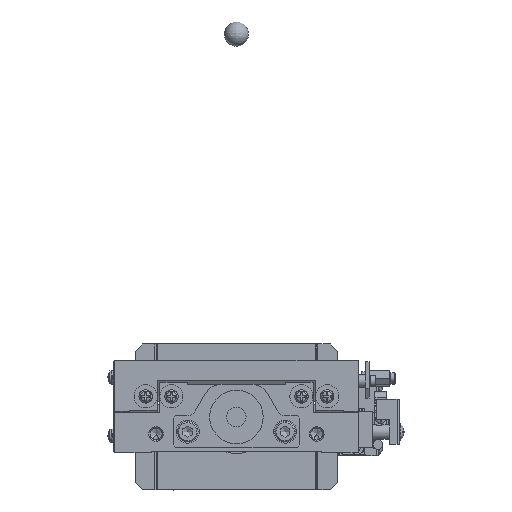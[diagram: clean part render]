
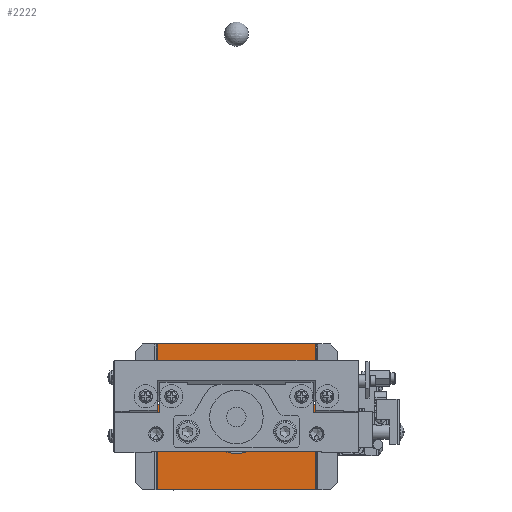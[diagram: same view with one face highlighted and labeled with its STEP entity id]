
A CAD part, left-side view. The second image highlights one B-rep face of the part: STEP entity #2222.
In plain terms, the highlighted planar face has unit normal (-1, 0, 0).
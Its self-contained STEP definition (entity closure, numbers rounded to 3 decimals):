
#2222=ADVANCED_FACE('',(#24152,#24153),#24151,.T.);
#24151=PLANE('',#46478);
#24152=FACE_OUTER_BOUND('',#46479,.T.);
#24153=FACE_BOUND('',#46480,.T.);
#46475=CARTESIAN_POINT('',(86.,-39.,50.7));
#46476=DIRECTION('',(-1.,0.,0.));
#46477=DIRECTION('',(0.,1.,0.));
#46478=AXIS2_PLACEMENT_3D('',#46475,#46476,#46477);
#46479=EDGE_LOOP('',(#63871,#63872,#63873,#63874,#63875,#63876,#63877,#63878,#63879,#63880,#63881,#63882,#63883));
#46480=EDGE_LOOP('',(#63884,#63885));
#63871=ORIENTED_EDGE('',*,*,#74068,.T.);
#63872=ORIENTED_EDGE('',*,*,#72691,.T.);
#63873=ORIENTED_EDGE('',*,*,#74071,.T.);
#63874=ORIENTED_EDGE('',*,*,#74182,.T.);
#63875=ORIENTED_EDGE('',*,*,#74074,.T.);
#63876=ORIENTED_EDGE('',*,*,#74245,.T.);
#63877=ORIENTED_EDGE('',*,*,#74114,.F.);
#63878=ORIENTED_EDGE('',*,*,#74178,.T.);
#63879=ORIENTED_EDGE('',*,*,#74104,.F.);
#63880=ORIENTED_EDGE('',*,*,#72702,.T.);
#63881=ORIENTED_EDGE('',*,*,#72698,.T.);
#63882=ORIENTED_EDGE('',*,*,#74103,.F.);
#63883=ORIENTED_EDGE('',*,*,#74246,.F.);
#63884=ORIENTED_EDGE('',*,*,#74186,.T.);
#63885=ORIENTED_EDGE('',*,*,#74187,.T.);
#72691=EDGE_CURVE('',#103292,#103333,#103340,.T.);
#72698=EDGE_CURVE('',#103386,#103378,#103387,.T.);
#72702=EDGE_CURVE('',#103413,#103386,#103414,.T.);
#74068=EDGE_CURVE('',#112523,#103292,#112524,.T.);
#74071=EDGE_CURVE('',#103333,#112536,#112543,.T.);
#74074=EDGE_CURVE('',#112564,#112557,#112565,.T.);
#74103=EDGE_CURVE('',#112755,#103378,#112762,.T.);
#74104=EDGE_CURVE('',#103413,#112768,#112769,.T.);
#74114=EDGE_CURVE('',#112835,#112836,#112837,.T.);
#74178=EDGE_CURVE('',#112835,#112768,#113255,.T.);
#74182=EDGE_CURVE('',#112536,#112564,#113280,.T.);
#74186=EDGE_CURVE('',#113306,#113299,#113307,.T.);
#74187=EDGE_CURVE('',#113299,#113306,#113313,.T.);
#74245=EDGE_CURVE('',#112557,#112836,#113689,.T.);
#74246=EDGE_CURVE('',#112523,#112755,#113695,.T.);
#103292=VERTEX_POINT('',#145659);
#103333=VERTEX_POINT('',#145686);
#103340=CIRCLE('',#145694,6.);
#103378=VERTEX_POINT('',#145821);
#103386=VERTEX_POINT('',#145827);
#103387=CIRCLE('',#145831,6.);
#103413=VERTEX_POINT('',#145844);
#103414=CIRCLE('',#145848,6.);
#112523=VERTEX_POINT('',#151945);
#112524=LINE('',#151946,#151947);
#112536=VERTEX_POINT('',#151952);
#112543=LINE('',#151956,#151957);
#112557=VERTEX_POINT('',#151964);
#112564=VERTEX_POINT('',#151968);
#112565=LINE('',#151969,#151970);
#112755=VERTEX_POINT('',#152075);
#112762=LINE('',#152079,#152080);
#112768=VERTEX_POINT('',#152082);
#112769=LINE('',#152083,#152084);
#112835=VERTEX_POINT('',#152119);
#112836=VERTEX_POINT('',#152120);
#112837=LINE('',#152121,#152122);
#113255=CIRCLE('',#152365,4.5);
#113280=CIRCLE('',#152380,4.5);
#113299=VERTEX_POINT('',#152390);
#113306=VERTEX_POINT('',#152393);
#113307=CIRCLE('',#152397,15.);
#113313=CIRCLE('',#152401,15.);
#113689=LINE('',#152614,#152615);
#113695=LINE('',#152617,#152618);
#145659=CARTESIAN_POINT('',(86.,-32.5,1.721));
#145686=CARTESIAN_POINT('',(86.,-32.5,13.679));
#145691=CARTESIAN_POINT('',(86.,-33.,7.7));
#145692=DIRECTION('',(1.,0.,0.));
#145693=DIRECTION('',(0.,0.083,-0.997));
#145694=AXIS2_PLACEMENT_3D('',#145691,#145692,#145693);
#145821=CARTESIAN_POINT('',(86.,32.5,1.721));
#145827=CARTESIAN_POINT('',(86.,27.,7.7));
#145828=CARTESIAN_POINT('',(86.,33.,7.7));
#145829=DIRECTION('',(1.,0.,0.));
#145830=DIRECTION('',(0.,1.,0.));
#145831=AXIS2_PLACEMENT_3D('',#145828,#145829,#145830);
#145844=CARTESIAN_POINT('',(86.,32.5,13.679));
#145845=CARTESIAN_POINT('',(86.,33.,7.7));
#145846=DIRECTION('',(1.,0.,0.));
#145847=DIRECTION('',(0.,1.,0.));
#145848=AXIS2_PLACEMENT_3D('',#145845,#145846,#145847);
#151945=CARTESIAN_POINT('',(86.,-32.5,-15.3));
#151946=CARTESIAN_POINT('',(86.,-32.5,-15.3));
#151947=VECTOR('',#151948,17.021);
#151948=DIRECTION('',(0.,0.,1.));
#151952=CARTESIAN_POINT('',(86.,-32.5,19.728));
#151956=CARTESIAN_POINT('',(86.,-32.5,13.679));
#151957=VECTOR('',#151958,6.049);
#151958=DIRECTION('',(0.,0.,1.));
#151964=CARTESIAN_POINT('',(86.,-32.5,44.7));
#151968=CARTESIAN_POINT('',(86.,-32.5,28.672));
#151969=CARTESIAN_POINT('',(86.,-32.5,28.672));
#151970=VECTOR('',#151971,16.028);
#151971=DIRECTION('',(0.,0.,1.));
#152075=CARTESIAN_POINT('',(86.,32.5,-15.3));
#152079=CARTESIAN_POINT('',(86.,32.5,-15.3));
#152080=VECTOR('',#152081,17.021);
#152081=DIRECTION('',(0.,0.,1.));
#152082=CARTESIAN_POINT('',(86.,32.5,19.728));
#152083=CARTESIAN_POINT('',(86.,32.5,13.679));
#152084=VECTOR('',#152085,6.049);
#152085=DIRECTION('',(0.,0.,1.));
#152119=CARTESIAN_POINT('',(86.,32.5,28.672));
#152120=CARTESIAN_POINT('',(86.,32.5,44.7));
#152121=CARTESIAN_POINT('',(86.,32.5,28.672));
#152122=VECTOR('',#152123,16.028);
#152123=DIRECTION('',(0.,0.,1.));
#152362=CARTESIAN_POINT('',(86.,32.,24.2));
#152363=DIRECTION('',(1.,0.,0.));
#152364=DIRECTION('',(0.,1.,0.));
#152365=AXIS2_PLACEMENT_3D('',#152362,#152363,#152364);
#152377=CARTESIAN_POINT('',(86.,-32.,24.2));
#152378=DIRECTION('',(1.,0.,0.));
#152379=DIRECTION('',(0.,-0.111,-0.994));
#152380=AXIS2_PLACEMENT_3D('',#152377,#152378,#152379);
#152390=CARTESIAN_POINT('',(86.,15.,14.7));
#152393=CARTESIAN_POINT('',(86.,-15.,14.7));
#152394=CARTESIAN_POINT('',(86.,0.,14.7));
#152395=DIRECTION('',(1.,0.,0.));
#152396=DIRECTION('',(0.,-1.,0.));
#152397=AXIS2_PLACEMENT_3D('',#152394,#152395,#152396);
#152398=CARTESIAN_POINT('',(86.,0.,14.7));
#152399=DIRECTION('',(1.,0.,0.));
#152400=DIRECTION('',(0.,-1.,0.));
#152401=AXIS2_PLACEMENT_3D('',#152398,#152399,#152400);
#152614=CARTESIAN_POINT('',(86.,-32.5,44.7));
#152615=VECTOR('',#152616,65.);
#152616=DIRECTION('',(0.,1.,0.));
#152617=CARTESIAN_POINT('',(86.,-32.5,-15.3));
#152618=VECTOR('',#152619,65.);
#152619=DIRECTION('',(0.,1.,0.));
